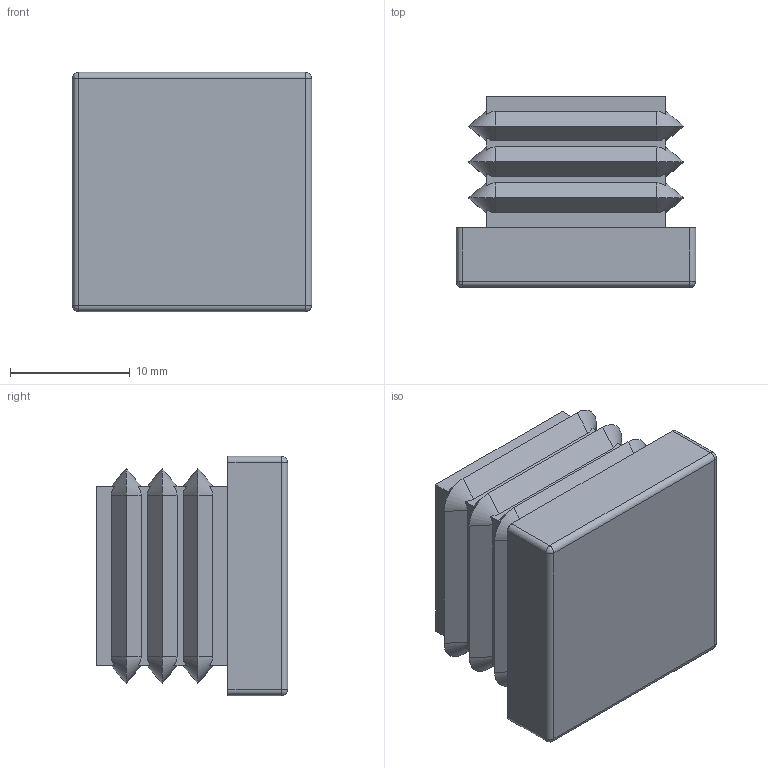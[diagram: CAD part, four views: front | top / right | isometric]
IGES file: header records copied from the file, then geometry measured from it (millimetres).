
Start section: SolidWorks IGES file using analytic representation for surfaces
Global section: file name: C:\HEMSIDA\cad\SLDPRT_2015\ifr\\ifr_20.igs; native system: SolidWorks 2015; preprocessor: SolidWorks 2015; author: Magnus; date: 150818.111753; units: millimetre
Bounding box: 20 x 16 x 20 mm (x, y, z)
Surface area: 2691.8 mm2 (no closed solid volume)
Topology: 0 solids, 0 shells, 88 faces, 640 edges, 636 vertices
Faces by surface type: bspline 52, revolution 36
